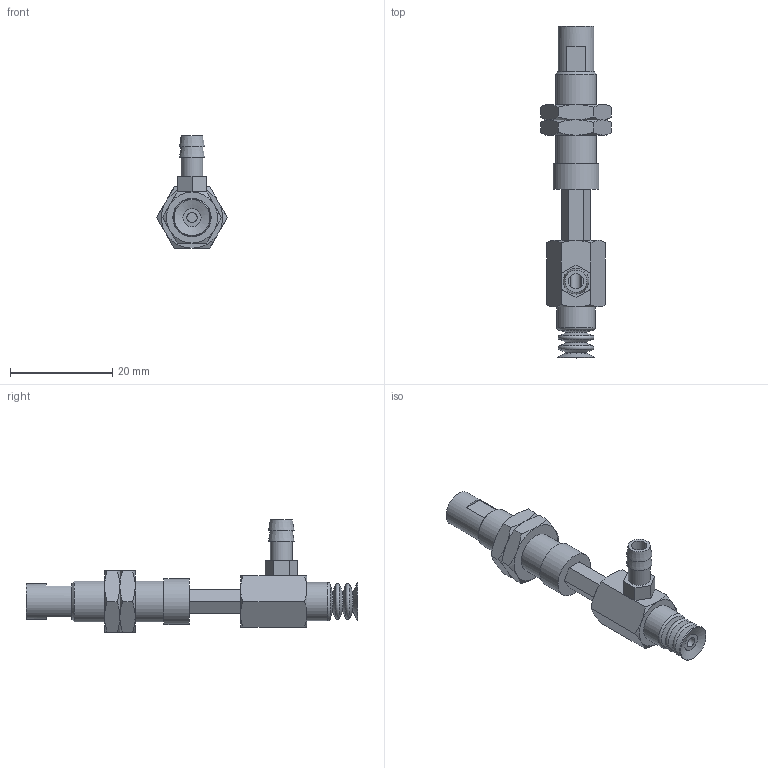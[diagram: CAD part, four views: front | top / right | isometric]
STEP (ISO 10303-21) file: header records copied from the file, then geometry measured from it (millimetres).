
FILE_DESCRIPTION(('STEP AP203'),'1');
FILE_NAME('-T.stp','2025-04-03T07:38:23',(' '),(' '),'Spatial InterOp 3D',' ',' ');
FILE_SCHEMA(('CONFIG_CONTROL_DESIGN'));
Length unit declared in the file: millimetre
Products named in the file (7): BNABPCYH-7-10-※-T; Connector_h-7-10; Nut napc_h-7-10; NAPCTH-7-10-FBODY; NAPCTH-7-10-MBODY; BPCG-7-※; T
Assembly tree (7 placements, depth 2):
  BNABPCYH-7-10-※-T
    Connector_h-7-10
    Nut napc_h-7-10  x2
    NAPCTH-7-10-FBODY
    NAPCTH-7-10-MBODY
    BPCG-7-※
    T
Bounding box: 13.86 x 65 x 22 mm (x, y, z)
Volume: 3624.6 mm3; surface area: 4677.2 mm2
Topology: 7 solids, 7 shells, 164 faces, 345 edges, 208 vertices
Faces by surface type: plane 75, cone 58, cylinder 18, torus 13
Full cylindrical faces by diameter (mm): 2 x2, 3 x1, 4 x2, 4.134 x2, 4.3 x1, 5 x2, 6 x2, 7 x1, 7.188 x2, 7.5 x1, 8 x1, 9 x1
Entity records: 4066 total; most frequent: CARTESIAN_POINT 919, DIRECTION 586, ORIENTED_EDGE 490, AXIS2_PLACEMENT_3D 246, EDGE_CURVE 245, EDGE_LOOP 214, VERTEX_POINT 177, FACE_OUTER_BOUND 171
